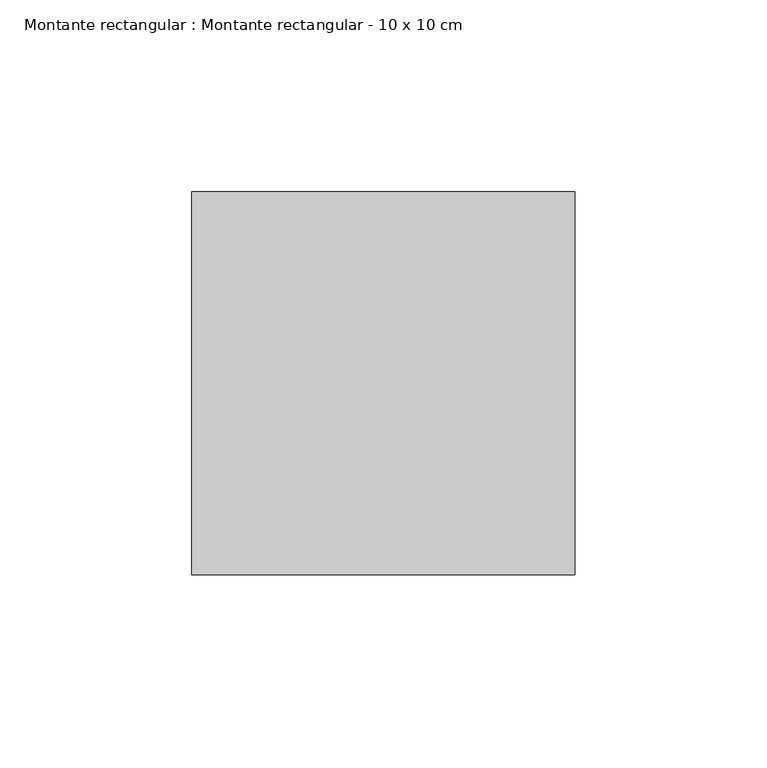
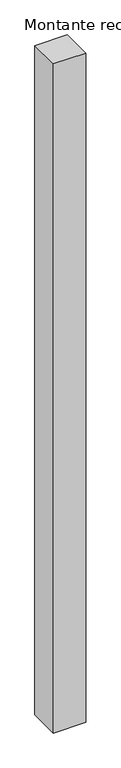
"""IFC4 building model written with IfcOpenShell, lengths in millimetres: member geometry, Montante rectangular : Montante rectangular - 10 x 10 cm."""

from ifc_helpers import new_model, si_unit, frame, origin, place, context, project, spatial, polyline, outline, extrude, source, transform, mapped, element, save


def montante_rectangular_montante_rectangular_10_x_10_cm_d74e2c2d(model_context):
    return source(origin(), model_context, "Body", "SweptSolid", [
        extrude(outline(polyline([(-100.0, -50.0), (-100.0, 50.0), (0.0, 50.0), (0.0, -50.0), (-100.0, -50.0)])), frame((0.0, 0.0, -2200.0), z_axis=(0.0, 0.0, 1.0), x_axis=(1.0, 0.0, 0.0)), (0.0, 0.0, 1.0), 2200.0),
    ])


if __name__ == "__main__":
    model = new_model("IFC4")
    model_context = context("Model", 3, world=origin())
    ifc_project = project(units=[si_unit("LENGTHUNIT", "METRE", prefix="MILLI")], contexts=[model_context])
    site = spatial("IfcSite", under=ifc_project)
    building = spatial("IfcBuilding", under=site)
    placement = place(None, origin())
    montante_rectangular_montante_rectangular_10_x_10_cm_shape = montante_rectangular_montante_rectangular_10_x_10_cm_d74e2c2d(model_context)
    element("IfcMember", 1, ObjectType="Montante rectangular : Montante rectangular - 10 x 10 cm", at=placement, inside=building, context=model_context, shape_type="MappedRepresentation", body=[
        mapped(montante_rectangular_montante_rectangular_10_x_10_cm_shape, transform((0.0, 0.0, 0.0), x_axis=(1.0, 0.0, 0.0), y_axis=(0.0, 1.0, 0.0), z_axis=(0.0, 0.0, 1.0))),
    ])
    save(model, "model.ifc")
